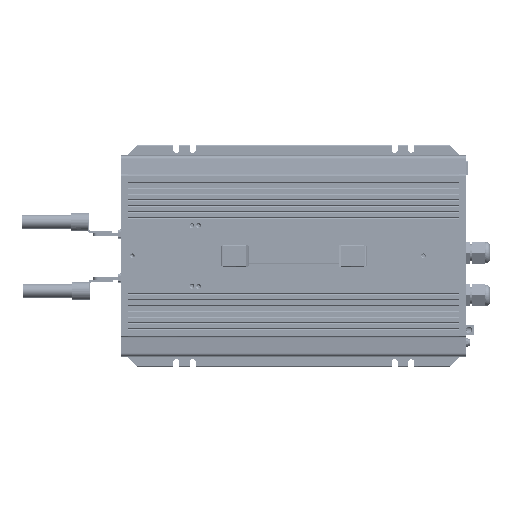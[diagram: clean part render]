
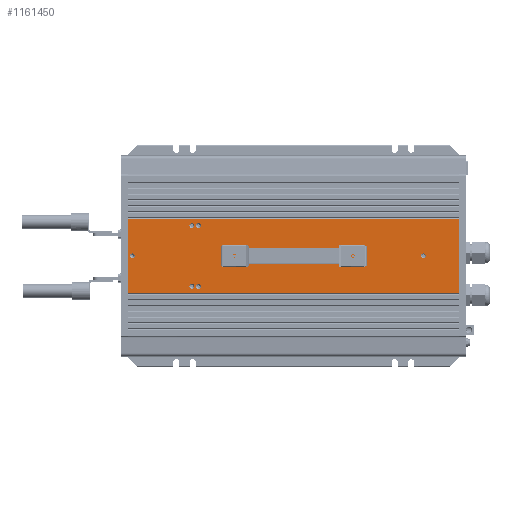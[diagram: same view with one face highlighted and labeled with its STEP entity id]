
A CAD part, top view. The second image highlights one B-rep face of the part: STEP entity #1161450.
In plain terms, the highlighted planar face has unit normal (0, 0, 1) as drawn and (0, 1, 0) by its records, which use the part's own axes.
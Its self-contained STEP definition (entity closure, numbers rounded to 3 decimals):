
#1138730=CARTESIAN_POINT('',(2078.449,98.104,-63.1));
#1138740=VERTEX_POINT('',#1138730);
#1138770=CARTESIAN_POINT('',(1988.299,98.104,-63.1));
#1138780=DIRECTION('',(1.,0.,0.));
#1138790=VECTOR('',#1138780,90.15);
#1138800=LINE('',#1138770,#1138790);
#1138810=CARTESIAN_POINT('',(1988.299,98.104,-63.1));
#1138820=VERTEX_POINT('',#1138810);
#1138830=EDGE_CURVE('',#1138820,#1138740,#1138800,.T.);
#1147710=CARTESIAN_POINT('',(1988.299,98.104,340.9));
#1147720=VERTEX_POINT('',#1147710);
#1147750=CARTESIAN_POINT('',(2078.449,98.104,340.9));
#1147760=DIRECTION('',(-1.,0.,0.));
#1147770=VECTOR('',#1147760,90.15);
#1147780=LINE('',#1147750,#1147770);
#1147790=CARTESIAN_POINT('',(2078.449,98.104,340.9));
#1147800=VERTEX_POINT('',#1147790);
#1147810=EDGE_CURVE('',#1147800,#1147720,#1147780,.T.);
#1159550=CARTESIAN_POINT('',(2030.374,98.104,296.9));
#1159560=VERTEX_POINT('',#1159550);
#1159680=CARTESIAN_POINT('',(2036.374,98.104,296.9));
#1159690=VERTEX_POINT('',#1159680);
#1159720=CARTESIAN_POINT('',(2033.374,98.104,296.9));
#1159730=DIRECTION('',(0.,-1.,0.));
#1159740=DIRECTION('',(1.,0.,0.));
#1159750=AXIS2_PLACEMENT_3D('',#1159720,#1159730,#1159740);
#1159760=CIRCLE('',#1159750,3.);
#1159770=EDGE_CURVE('',#1159690,#1159560,#1159760,.T.);
#1160060=CARTESIAN_POINT('',(2028.721,98.104,122.9));
#1160070=DIRECTION('',(0.,-1.,0.));
#1160080=DIRECTION('',(1.,0.,0.));
#1160090=AXIS2_PLACEMENT_3D('',#1160060,#1160070,#1160080);
#1160100=PLANE('',#1160090);
#1160110=CARTESIAN_POINT('',(2033.376,98.104,210.9));
#1160120=DIRECTION('',(0.,1.,0.));
#1160130=DIRECTION('',(0.,0.,1.));
#1160140=AXIS2_PLACEMENT_3D('',#1160110,#1160120,#1160130);
#1160150=CIRCLE('',#1160140,1.6);
#1160160=CARTESIAN_POINT('',(2033.376,98.104,212.5));
#1160170=VERTEX_POINT('',#1160160);
#1160180=CARTESIAN_POINT('',(2033.376,98.104,209.3));
#1160190=VERTEX_POINT('',#1160180);
#1160200=EDGE_CURVE('',#1160170,#1160190,#1160150,.T.);
#1160210=ORIENTED_EDGE('',*,*,#1160200,.F.);
#1160220=EDGE_CURVE('',#1160190,#1160170,#1160150,.T.);
#1160230=ORIENTED_EDGE('',*,*,#1160220,.F.);
#1160240=EDGE_LOOP('',(#1160230,#1160210));
#1160250=FACE_BOUND('',#1160240,.T.);
#1160260=CARTESIAN_POINT('',(1996.284,98.104,22.949
));
#1160270=DIRECTION('',(0.,1.,0.));
#1160280=DIRECTION('',(1.,0.,0.));
#1160290=AXIS2_PLACEMENT_3D('',#1160260,#1160270,#1160280);
#1160300=CIRCLE('',#1160290,3.);
#1160310=CARTESIAN_POINT('',(1996.284,98.104,19.949
));
#1160320=VERTEX_POINT('',#1160310);
#1160330=CARTESIAN_POINT('',(1993.284,98.104,22.949
));
#1160340=VERTEX_POINT('',#1160330);
#1160350=EDGE_CURVE('',#1160320,#1160340,#1160300,.T.);
#1160360=ORIENTED_EDGE('',*,*,#1160350,.F.);
#1160370=CARTESIAN_POINT('',(1999.284,98.104,22.949
));
#1160380=VERTEX_POINT('',#1160370);
#1160390=EDGE_CURVE('',#1160340,#1160380,#1160300,.T.);
#1160400=ORIENTED_EDGE('',*,*,#1160390,.F.);
#1160410=EDGE_CURVE('',#1160380,#1160320,#1160300,.T.);
#1160420=ORIENTED_EDGE('',*,*,#1160410,.F.);
#1160430=EDGE_LOOP('',(#1160420,#1160400,#1160360));
#1160440=FACE_BOUND('',#1160430,.T.);
#1160450=EDGE_CURVE('',#1159560,#1159690,#1159760,.T.);
#1160460=ORIENTED_EDGE('',*,*,#1160450,.T.);
#1160470=ORIENTED_EDGE('',*,*,#1159770,.T.);
#1160480=EDGE_LOOP('',(#1160470,#1160460));
#1160490=FACE_BOUND('',#1160480,.T.);
#1160500=CARTESIAN_POINT('',(2033.376,98.104,-57.6));
#1160510=DIRECTION('',(0.,-1.,0.));
#1160520=DIRECTION('',(-1.,0.,0.));
#1160530=AXIS2_PLACEMENT_3D('',#1160500,#1160510,#1160520);
#1160540=CIRCLE('',#1160530,3.);
#1160550=CARTESIAN_POINT('',(2030.376,98.104,
-57.6));
#1160560=VERTEX_POINT('',#1160550);
#1160570=CARTESIAN_POINT('',(2036.376,98.104,
-57.6));
#1160580=VERTEX_POINT('',#1160570);
#1160590=EDGE_CURVE('',#1160560,#1160580,#1160540,.T.);
#1160600=ORIENTED_EDGE('',*,*,#1160590,.T.);
#1160610=EDGE_CURVE('',#1160580,#1160560,#1160540,.T.);
#1160620=ORIENTED_EDGE('',*,*,#1160610,.T.);
#1160630=EDGE_LOOP('',(#1160620,#1160600));
#1160640=FACE_BOUND('',#1160630,.T.);
#1160650=CARTESIAN_POINT('',(2070.318,98.104,14.949));
#1160660=DIRECTION('',(0.,1.,0.));
#1160670=DIRECTION('',(1.,0.,0.));
#1160680=AXIS2_PLACEMENT_3D('',#1160650,#1160660,#1160670);
#1160690=CIRCLE('',#1160680,3.);
#1160700=CARTESIAN_POINT('',(2073.318,98.104,14.949));
#1160710=VERTEX_POINT('',#1160700);
#1160720=CARTESIAN_POINT('',(2067.318,98.104,14.949));
#1160730=VERTEX_POINT('',#1160720);
#1160740=EDGE_CURVE('',#1160710,#1160730,#1160690,.T.);
#1160750=ORIENTED_EDGE('',*,*,#1160740,.F.);
#1160760=EDGE_CURVE('',#1160730,#1160710,#1160690,.T.);
#1160770=ORIENTED_EDGE('',*,*,#1160760,.F.);
#1160780=EDGE_LOOP('',(#1160770,#1160750));
#1160790=FACE_BOUND('',#1160780,.T.);
#1160800=CARTESIAN_POINT('',(1996.284,98.104,14.949
));
#1160810=DIRECTION('',(0.,1.,0.));
#1160820=DIRECTION('',(1.,0.,0.));
#1160830=AXIS2_PLACEMENT_3D('',#1160800,#1160810,#1160820);
#1160840=CIRCLE('',#1160830,3.);
#1160850=CARTESIAN_POINT('',(1995.513,98.104,12.05
));
#1160860=VERTEX_POINT('',#1160850);
#1160870=CARTESIAN_POINT('',(1993.284,98.104,14.949
));
#1160880=VERTEX_POINT('',#1160870);
#1160890=EDGE_CURVE('',#1160860,#1160880,#1160840,.T.);
#1160900=ORIENTED_EDGE('',*,*,#1160890,.F.);
#1160910=CARTESIAN_POINT('',(1999.284,98.104,14.949
));
#1160920=VERTEX_POINT('',#1160910);
#1160930=EDGE_CURVE('',#1160880,#1160920,#1160840,.T.);
#1160940=ORIENTED_EDGE('',*,*,#1160930,.F.);
#1160950=EDGE_CURVE('',#1160920,#1160860,#1160840,.T.);
#1160960=ORIENTED_EDGE('',*,*,#1160950,.F.);
#1160970=EDGE_LOOP('',(#1160960,#1160940,#1160900));
#1160980=FACE_BOUND('',#1160970,.T.);
#1160990=CARTESIAN_POINT('',(2070.318,98.104,22.949));
#1161000=DIRECTION('',(0.,1.,0.));
#1161010=DIRECTION('',(1.,0.,0.));
#1161020=AXIS2_PLACEMENT_3D('',#1160990,#1161000,#1161010);
#1161030=CIRCLE('',#1161020,3.);
#1161040=CARTESIAN_POINT('',(2073.318,98.104,22.949));
#1161050=VERTEX_POINT('',#1161040);
#1161060=CARTESIAN_POINT('',(2067.318,98.104,22.949));
#1161070=VERTEX_POINT('',#1161060);
#1161080=EDGE_CURVE('',#1161050,#1161070,#1161030,.T.);
#1161090=ORIENTED_EDGE('',*,*,#1161080,.F.);
#1161100=EDGE_CURVE('',#1161070,#1161050,#1161030,.T.);
#1161110=ORIENTED_EDGE('',*,*,#1161100,.F.);
#1161120=EDGE_LOOP('',(#1161110,#1161090));
#1161130=FACE_BOUND('',#1161120,.T.);
#1161140=CARTESIAN_POINT('',(2033.376,98.104,66.9));
#1161150=DIRECTION('',(0.,1.,0.));
#1161160=DIRECTION('',(0.,0.,1.));
#1161170=AXIS2_PLACEMENT_3D('',#1161140,#1161150,#1161160);
#1161180=CIRCLE('',#1161170,1.6);
#1161190=CARTESIAN_POINT('',(2033.376,98.104,68.5));
#1161200=VERTEX_POINT('',#1161190);
#1161210=CARTESIAN_POINT('',(2033.376,98.104,65.3));
#1161220=VERTEX_POINT('',#1161210);
#1161230=EDGE_CURVE('',#1161200,#1161220,#1161180,.T.);
#1161240=ORIENTED_EDGE('',*,*,#1161230,.F.);
#1161250=EDGE_CURVE('',#1161220,#1161200,#1161180,.T.);
#1161260=ORIENTED_EDGE('',*,*,#1161250,.F.);
#1161270=EDGE_LOOP('',(#1161260,#1161240));
#1161280=FACE_BOUND('',#1161270,.T.);
#1161290=ORIENTED_EDGE('',*,*,#1138830,.F.);
#1161300=CARTESIAN_POINT('',(2078.449,98.104,-63.1));
#1161310=DIRECTION('',(0.,0.,1.));
#1161320=VECTOR('',#1161310,404.);
#1161330=LINE('',#1161300,#1161320);
#1161340=EDGE_CURVE('',#1138740,#1147800,#1161330,.T.);
#1161350=ORIENTED_EDGE('',*,*,#1161340,.F.);
#1161360=ORIENTED_EDGE('',*,*,#1147810,.F.);
#1161370=CARTESIAN_POINT('',(1988.299,98.104,340.9));
#1161380=DIRECTION('',(0.,0.,-1.));
#1161390=VECTOR('',#1161380,404.);
#1161400=LINE('',#1161370,#1161390);
#1161410=EDGE_CURVE('',#1147720,#1138820,#1161400,.T.);
#1161420=ORIENTED_EDGE('',*,*,#1161410,.F.);
#1161430=EDGE_LOOP('',(#1161420,#1161360,#1161350,#1161290));
#1161440=FACE_OUTER_BOUND('',#1161430,.T.);
#1161450=ADVANCED_FACE('',(#1160250,#1160440,#1160490,#1160640,#1160790,
#1160980,#1161130,#1161280,#1161440),#1160100,.F.);
